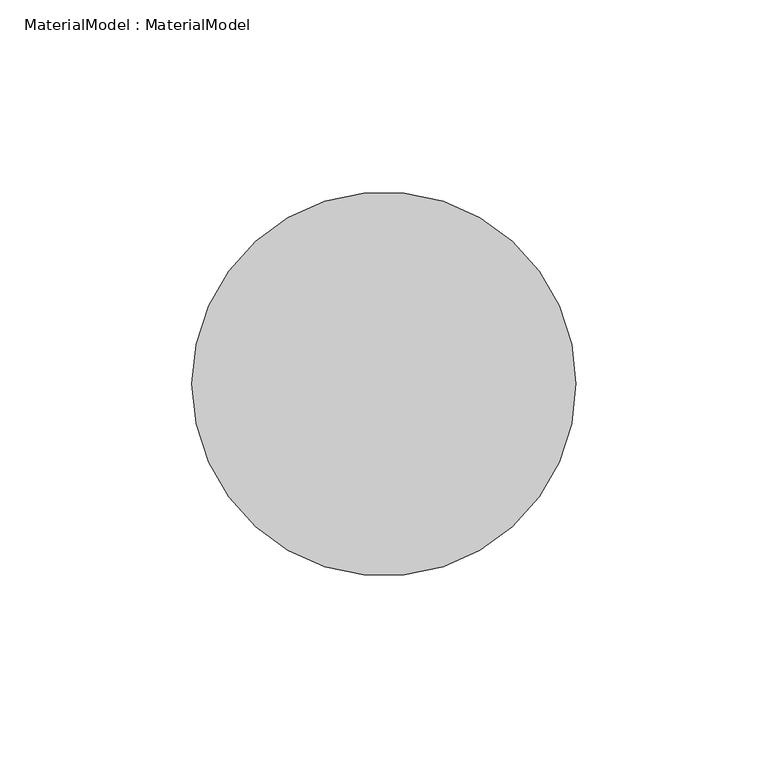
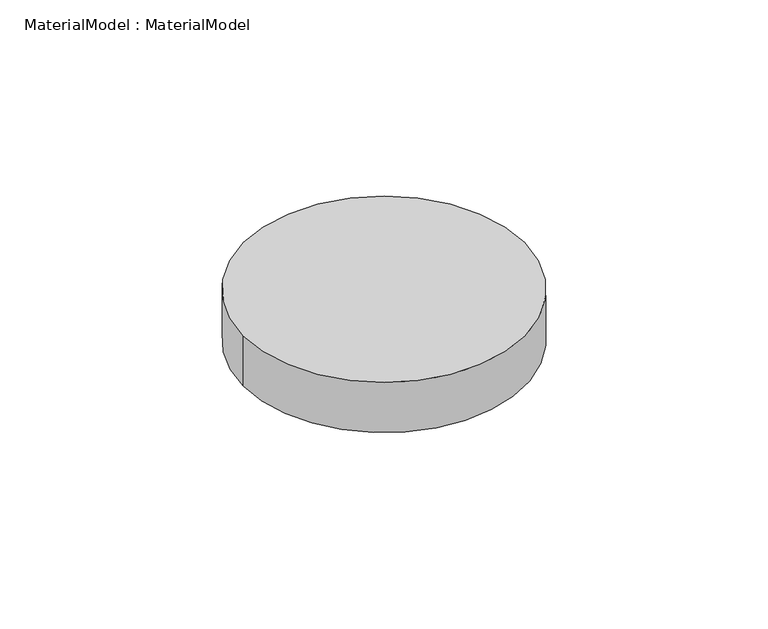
"""IFC4 building model written with IfcOpenShell, lengths in millimetres: proxy geometry, MaterialModel : MaterialModel."""

from ifc_helpers import new_model, si_unit, point, origin, origin_with_axes, origin_2d, place, context, project, spatial, circle_curve, trimmed, segment, composite_curve, outline, extrude, source, transform, mapped, element, save


def materialmodel_materialmodel_885a1eda(model_context):
    return source(origin(), model_context, "Body", "SweptSolid", [
        extrude(outline(composite_curve([segment(trimmed(circle_curve(origin_2d(), 50.0), [point((-50.0, 0.0))], [point((50.0, 0.0))], False, "CARTESIAN"), True, "CONTINUOUS"), segment(trimmed(circle_curve(origin_2d(), 50.0), [point((50.0, 0.0))], [point((-50.0, 0.0))], False, "CARTESIAN"), True, "CONTINUOUS")], self_intersect=False)), origin_with_axes(), (0.0, 0.0, 1.0), 18.966257),
    ])


if __name__ == "__main__":
    model = new_model("IFC4")
    model_context = context("Model", 3, world=origin())
    ifc_project = project(units=[si_unit("LENGTHUNIT", "METRE", prefix="MILLI")], contexts=[model_context])
    site = spatial("IfcSite", under=ifc_project)
    building = spatial("IfcBuilding", under=site)
    placement = place(None, origin())
    materialmodel_materialmodel_shape = materialmodel_materialmodel_885a1eda(model_context)
    element("IfcBuildingElementProxy", 1, Name="MaterialModel : MaterialModel", ObjectType="MaterialModel : MaterialModel", at=placement, inside=building, context=model_context, shape_type="MappedRepresentation", body=[
        mapped(materialmodel_materialmodel_shape, transform((0.0, 0.0, 0.0), x_axis=(1.0, 0.0, 0.0), y_axis=(0.0, 1.0, 0.0), z_axis=(0.0, 0.0, 1.0))),
    ])
    save(model, "model.ifc")
